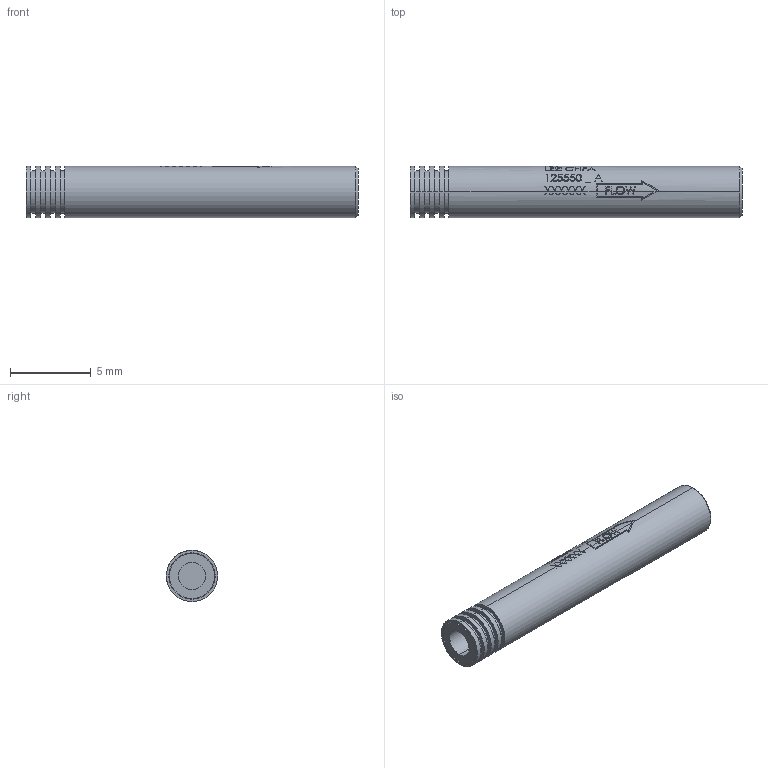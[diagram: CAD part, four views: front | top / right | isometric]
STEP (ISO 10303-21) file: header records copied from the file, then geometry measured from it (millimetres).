
FILE_DESCRIPTION (( 'STEP AP214' ), '1' );
FILE_NAME ('3DCHFA125550-A.STEP', '2021-03-30T18:21:27', ( '' ), ( '' ), 'SwSTEP 2.0', 'SolidWorks 2019', '' );
FILE_SCHEMA (( 'AUTOMOTIVE_DESIGN' ));
Length unit declared in the file: inch
Products named in the file (1): 3DCHFA125550-A
Bounding box: 20.57 x 3.17 x 3.17 mm (x, y, z)
Volume: 150.7 mm3; surface area: 260.2 mm2
Topology: 1 solids, 1 shells, 407 faces, 1121 edges, 746 vertices
Faces by surface type: plane 162, bspline 155, cylinder 86, cone 4
Entity records: 20023 total; most frequent: CARTESIAN_POINT 6513, ORIENTED_EDGE 2242, DIRECTION 1184, EDGE_CURVE 1121, VERTEX_POINT 746, B_SPLINE_CURVE_WITH_KNOTS 599, EDGE_LOOP 437, AXIS2_PLACEMENT_3D 409
